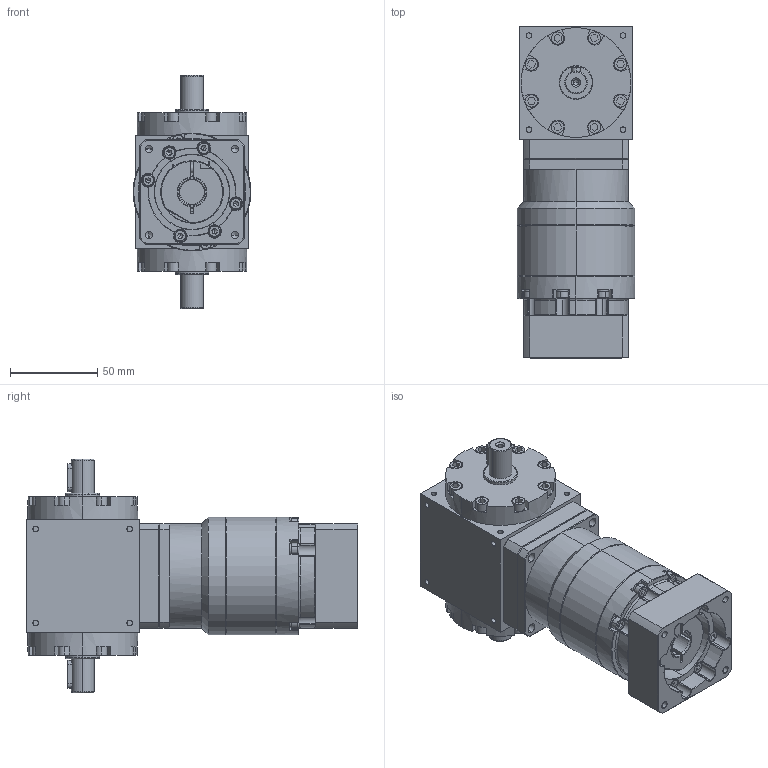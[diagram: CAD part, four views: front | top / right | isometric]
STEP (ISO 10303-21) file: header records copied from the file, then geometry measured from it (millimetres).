
FILE_DESCRIPTION (( 'STEP AP203' ), '1' );
FILE_NAME ('AT065-FL-L2 14-50-70-M5.STEP', '2024-12-18T09:04:51', ( '' ), ( '' ), 'SwSTEP 2.0', 'SolidWorks 2021', '' );
FILE_SCHEMA (( 'CONFIG_CONTROL_DESIGN' ));
Length unit declared in the file: millimetre
Products named in the file (3): AT065-FL-L2 14-50-70-M5; VRB-060-L2-S2-P1 14-50-70-M5; AT065-FL
Assembly tree (2 placements, depth 2):
  AT065-FL-L2 14-50-70-M5
    AT065-FL
    VRB-060-L2-S2-P1 14-50-70-M5
Bounding box: 67.5 x 190.5 x 134 mm (x, y, z)
Volume: 683919.6 mm3; surface area: 121777.1 mm2
Topology: 34 solids, 34 shells, 1524 faces, 3807 edges, 2392 vertices
Faces by surface type: plane 640, cylinder 578, cone 232, torus 54, bspline 20
Entity records: 46420 total; most frequent: CARTESIAN_POINT 9751, DIRECTION 7890, ORIENTED_EDGE 7490, EDGE_CURVE 3745, AXIS2_PLACEMENT_3D 3040, VERTEX_POINT 2392, VECTOR 1810, LINE 1810
